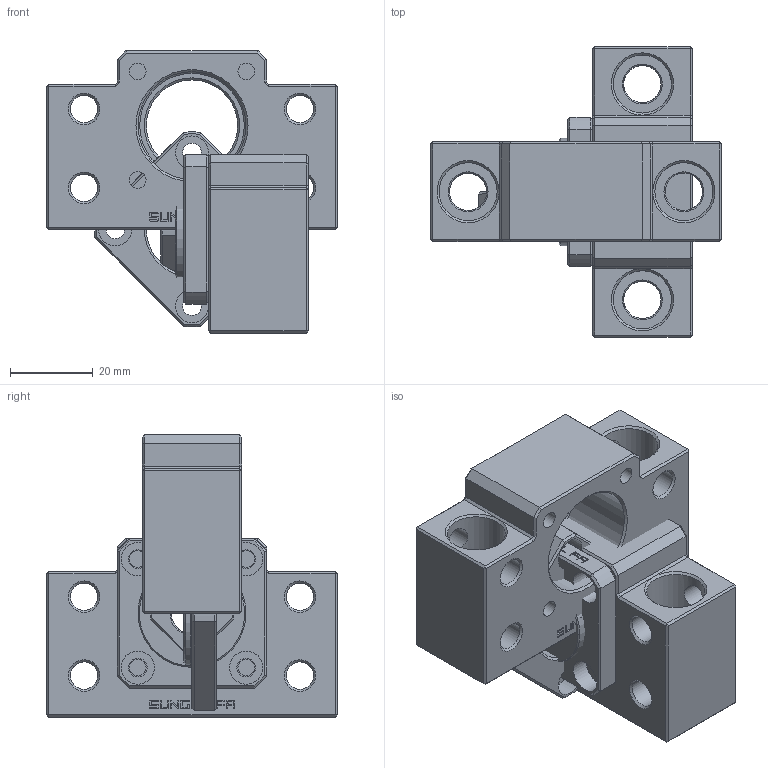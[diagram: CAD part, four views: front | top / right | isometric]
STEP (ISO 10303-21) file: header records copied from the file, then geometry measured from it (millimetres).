
FILE_DESCRIPTION( ( 'Unknown' ), '1' );
FILE_NAME( 'D:/3D/憮んお嶸棉/20060119/SAK TYPE/SAK10/SAK10(ASSM).stp', 'Unknown', ( 'Unknown' ), ( 'Unknown' ), 'XStep 1.0', 'Unknown', ' ' );
FILE_SCHEMA( ( 'CONFIG_CONTROL_DESIGN' ) );
Length unit declared in the file: millimetre
Products named in the file (9): Assem1; SAK10(locknut); SAK10(collar); SAK10(bearing); SAK10(seal); SAK10(housing); SAK10(housinglid)
Bounding box: 70 x 70 x 68 mm (x, y, z)
Volume: 119010.2 mm3; surface area: 49946.3 mm2
Topology: 16 solids, 16 shells, 1382 faces, 3642 edges, 2366 vertices
Faces by surface type: plane 694, cylinder 558, cone 120, bspline 8, torus 2
Full cylindrical faces by diameter (mm): 4 x10, 4.5 x8, 6.6 x16, 8 x8, 9 x4, 10 x10, 14 x10, 15 x2, 22 x6, 26 x8
Entity records: 21931 total; most frequent: CARTESIAN_POINT 4449, DIRECTION 3645, ORIENTED_EDGE 3412, EDGE_CURVE 1706, AXIS2_PLACEMENT_3D 1302, VERTEX_POINT 1154, LINE 1041, VECTOR 1041
